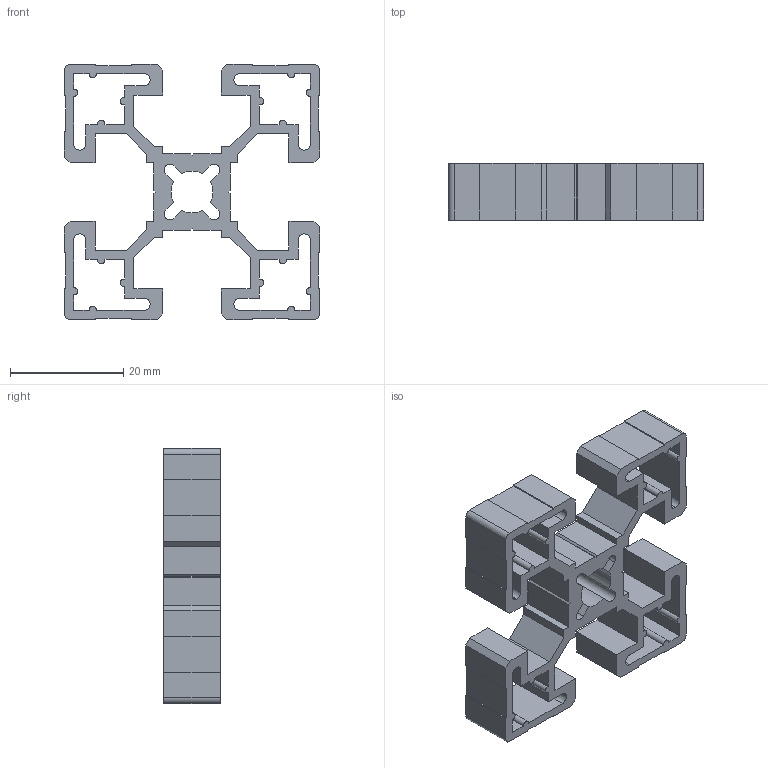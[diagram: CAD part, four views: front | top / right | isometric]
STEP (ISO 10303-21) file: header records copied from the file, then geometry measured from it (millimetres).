
FILE_DESCRIPTION((''),'2;1');
FILE_NAME('PR045045L','2002-12-27T',('Lipro doo'),('Lipro d.o.o.'),'PRO/ENGINEER BY PARAMETRIC TECHNOLOGY CORPORATION, 2001150','PRO/ENGINEER BY PARAMETRIC TECHNOLOGY CORPORATION, 2001150','');
FILE_SCHEMA(('CONFIG_CONTROL_DESIGN'));
Length unit declared in the file: millimetre
Products named in the file (1): PR045045L
Bounding box: 45 x 10 x 45 mm (x, y, z)
Volume: 5954.7 mm3; surface area: 7531.8 mm2
Topology: 1 solids, 1 shells, 230 faces, 684 edges, 456 vertices
Faces by surface type: plane 186, cylinder 44
Entity records: 7694 total; most frequent: CARTESIAN_POINT 1370, ORIENTED_EDGE 1368, DIRECTION 1232, EDGE_CURVE 684, VECTOR 596, LINE 596, VERTEX_POINT 456, AXIS2_PLACEMENT_3D 318
